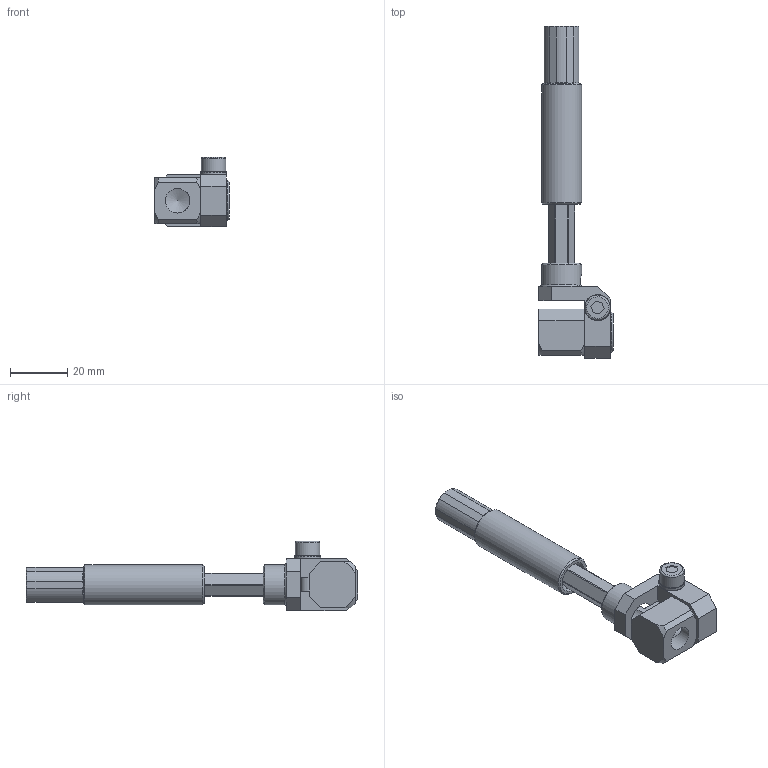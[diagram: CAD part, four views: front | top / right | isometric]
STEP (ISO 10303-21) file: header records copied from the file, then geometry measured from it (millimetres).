
FILE_DESCRIPTION(('STEP AP214'),'1');
FILE_NAME('CA.SSN.14201818.stp','2016-08-03T08:15:13',(' '),(' '),'Spatial InterOp 3D',' ',' ');
FILE_SCHEMA(('automotive_design'));
Length unit declared in the file: millimetre
Products named in the file (11): VSN.1435.1.1; VSN.1420.2.1; VSN.1420.3; VSN.14.1; M.8.45X34; VSN.1420.1.2; GGB.14.18.18; SSN.14201818.1; R.5.SCH; V-tcei M  5 x 18
Assembly tree (10 placements, depth 2):
  (unnamed)
    VSN.1435.1.1
    VSN.1420.2.1
    VSN.1420.3
    VSN.14.1
    M.8.45X34
    VSN.1420.1.2
    GGB.14.18.18
    SSN.14201818.1
    R.5.SCH
    V-tcei M  5 x 18
Bounding box: 26 x 115.5 x 24.1 mm (x, y, z)
Volume: 15422.7 mm3; surface area: 15011.9 mm2
Topology: 9 solids, 10 shells, 347 faces, 952 edges, 626 vertices
Faces by surface type: plane 268, cylinder 45, cone 24, torus 9, bspline 1
Full cylindrical faces by diameter (mm): 3.5 x1, 4.2 x2, 4.5 x1, 5 x4, 5.2 x1, 5.3 x1, 6 x3, 7 x3, 7.2 x1, 8.5 x1, 8.566 x3, 9 x1, 9.5 x1, 10 x1, 11 x2, 13.95 x2, 14 x2
Entity records: 16384 total; most frequent: CARTESIAN_POINT 4699, DIRECTION 1846, ORIENTED_EDGE 1744, EDGE_CURVE 872, AXIS2_PLACEMENT_3D 659, VERTEX_POINT 607, LINE 528, VECTOR 528
